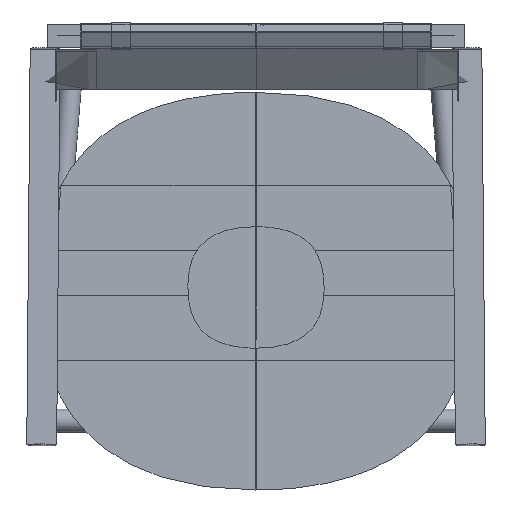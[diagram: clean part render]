
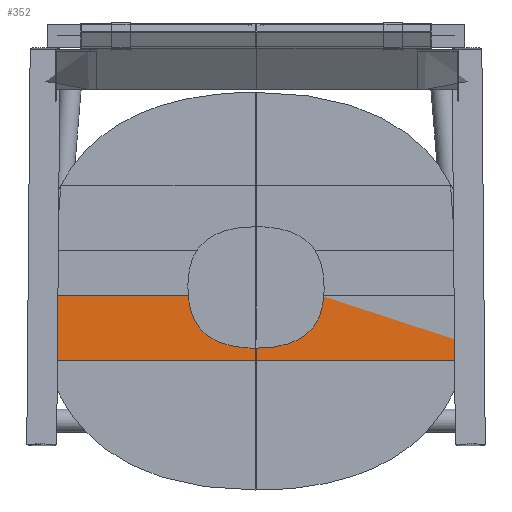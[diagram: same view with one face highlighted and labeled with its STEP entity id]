
A CAD part, top view. The second image highlights one B-rep face of the part: STEP entity #352.
In plain terms, the highlighted free-form (B-spline) face has degree [1, 1] with [2, 2] control points.
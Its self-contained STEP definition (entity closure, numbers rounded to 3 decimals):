
#352=ADVANCED_FACE('',(#876),#15521,.T.);
#876=FACE_OUTER_BOUND('',#1400,.T.);
#1400=EDGE_LOOP('',(#2783,#2784,#2785,#2786));
#2783=ORIENTED_EDGE('',*,*,#12859,.T.);
#2784=ORIENTED_EDGE('',*,*,#12856,.F.);
#2785=ORIENTED_EDGE('',*,*,#12860,.T.);
#2786=ORIENTED_EDGE('',*,*,#12850,.F.);
#5032=PCURVE('',#15518,#7292);
#5038=PCURVE('',#15519,#7298);
#5043=PCURVE('',#15521,#7303);
#5044=PCURVE('',#15521,#7304);
#5045=PCURVE('',#15521,#7305);
#5046=PCURVE('',#15521,#7306);
#5047=PCURVE('',#15522,#7307);
#5053=PCURVE('',#15523,#7313);
#7292=DEFINITIONAL_REPRESENTATION('',(#9698),#48049);
#7298=DEFINITIONAL_REPRESENTATION('',(#9710),#48049);
#7303=DEFINITIONAL_REPRESENTATION('',(#9718),#48049);
#7304=DEFINITIONAL_REPRESENTATION('',(#9719),#48049);
#7305=DEFINITIONAL_REPRESENTATION('',(#9721),#48049);
#7306=DEFINITIONAL_REPRESENTATION('',(#9722),#48049);
#7307=DEFINITIONAL_REPRESENTATION('',(#9723),#48049);
#7313=DEFINITIONAL_REPRESENTATION('',(#9729),#48049);
#9697=B_SPLINE_CURVE_WITH_KNOTS('',1,(#30278,#30279),.UNSPECIFIED.,.F.,
 .F.,(2,2),(-353.881,-105.402),.UNSPECIFIED.);
#9698=B_SPLINE_CURVE_WITH_KNOTS('',1,(#30280,#30281),.UNSPECIFIED.,.F.,
 .F.,(2,2),(-353.881,-105.402),.UNSPECIFIED.);
#9709=B_SPLINE_CURVE_WITH_KNOTS('',1,(#30314,#30315),.UNSPECIFIED.,.F.,
 .F.,(2,2),(-715.361,-472.811),.UNSPECIFIED.);
#9710=B_SPLINE_CURVE_WITH_KNOTS('',1,(#30316,#30317),.UNSPECIFIED.,.F.,
 .F.,(2,2),(-715.361,-472.811),.UNSPECIFIED.);
#9717=B_SPLINE_CURVE_WITH_KNOTS('',3,(#30338,#30339,#30340,#30341),
 .UNSPECIFIED.,.F.,.F.,(4,4),(0.952,96.059),
 .UNSPECIFIED.);
#9718=B_SPLINE_CURVE_WITH_KNOTS('',3,(#30342,#30343,#30344,#30345),
 .UNSPECIFIED.,.F.,.F.,(4,4),(0.952,96.059),
 .UNSPECIFIED.);
#9719=B_SPLINE_CURVE_WITH_KNOTS('',1,(#30346,#30347),.UNSPECIFIED.,.F.,
 .F.,(2,2),(-715.361,-472.811),.UNSPECIFIED.);
#9720=B_SPLINE_CURVE_WITH_KNOTS('',3,(#30348,#30349,#30350,#30351),
 .UNSPECIFIED.,.F.,.F.,(4,4),(11.89,106.997),
 .UNSPECIFIED.);
#9721=B_SPLINE_CURVE_WITH_KNOTS('',3,(#30352,#30353,#30354,#30355),
 .UNSPECIFIED.,.F.,.F.,(4,4),(11.89,106.997),
 .UNSPECIFIED.);
#9722=B_SPLINE_CURVE_WITH_KNOTS('',1,(#30356,#30357),.UNSPECIFIED.,.F.,
 .F.,(2,2),(-353.881,-105.402),.UNSPECIFIED.);
#9723=B_SPLINE_CURVE_WITH_KNOTS('',3,(#30358,#30359,#30360,#30361),
 .UNSPECIFIED.,.F.,.F.,(4,4),(11.89,106.997),
 .UNSPECIFIED.);
#9729=B_SPLINE_CURVE_WITH_KNOTS('',3,(#30382,#30383,#30384,#30385),
 .UNSPECIFIED.,.F.,.F.,(4,4),(0.952,96.059),
 .UNSPECIFIED.);
#11639=SURFACE_CURVE('',#9697,(#5032,#5046),.PCURVE_S1.);
#11645=SURFACE_CURVE('',#9709,(#5038,#5044),.PCURVE_S1.);
#11648=SURFACE_CURVE('',#9717,(#5043,#5053),.PCURVE_S1.);
#11649=SURFACE_CURVE('',#9720,(#5045,#5047),.PCURVE_S1.);
#12850=EDGE_CURVE('',#14688,#14683,#11639,.T.);
#12856=EDGE_CURVE('',#14686,#14689,#11645,.T.);
#12859=EDGE_CURVE('',#14688,#14689,#11648,.T.);
#12860=EDGE_CURVE('',#14686,#14683,#11649,.T.);
#14683=VERTEX_POINT('',#30262);
#14686=VERTEX_POINT('',#30265);
#14688=VERTEX_POINT('',#30267);
#14689=VERTEX_POINT('',#30268);
#15518=B_SPLINE_SURFACE_WITH_KNOTS('',1,1,((#30238,#30239),(#30240,#30241)),
 .UNSPECIFIED.,.F.,.F.,.F.,(2,2),(2,2),(94.846,364.442),
(0.,17.006),.UNSPECIFIED.);
#15519=B_SPLINE_SURFACE_WITH_KNOTS('',1,1,((#30242,#30243),(#30244,#30245)),
 .UNSPECIFIED.,.F.,.F.,.F.,(2,2),(2,2),(459.288,728.884),
(0.,17.006),.UNSPECIFIED.);
#15521=B_SPLINE_SURFACE_WITH_KNOTS('',1,1,((#30250,#30251),(#30252,#30253)),
 .UNSPECIFIED.,.F.,.F.,.F.,(2,2),(2,2),(-11.857,106.702),
(-80.032,720.284),.UNSPECIFIED.);
#15522=B_SPLINE_SURFACE_WITH_KNOTS('',1,1,((#30254,#30255),(#30256,#30257)),
 .UNSPECIFIED.,.F.,.F.,.F.,(2,2),(2,2),(0.,130.207),(472.968,
700.655),.UNSPECIFIED.);
#15523=B_SPLINE_SURFACE_WITH_KNOTS('',1,1,((#30258,#30259),(#30260,#30261)),
 .UNSPECIFIED.,.F.,.F.,.F.,(2,2),(2,2),(0.,130.207),(0.,227.687),
 .UNSPECIFIED.);
#30238=CARTESIAN_POINT('',(75546.693,-59292.014,275.141));
#30239=CARTESIAN_POINT('',(75546.733,-59290.467,309.256));
#30240=CARTESIAN_POINT('',(76214.671,-59292.025,274.988));
#30241=CARTESIAN_POINT('',(76214.711,-59290.478,309.103));
#30242=CARTESIAN_POINT('',(76214.665,-59197.276,270.695));
#30243=CARTESIAN_POINT('',(76214.704,-59195.729,304.809));
#30244=CARTESIAN_POINT('',(75546.687,-59197.265,270.848));
#30245=CARTESIAN_POINT('',(75546.726,-59195.718,304.962));
#30250=CARTESIAN_POINT('',(75463.228,-59183.872,304.445));
#30251=CARTESIAN_POINT('',(76298.21,-59183.887,304.254));
#30252=CARTESIAN_POINT('',(75463.227,-59302.309,309.812));
#30253=CARTESIAN_POINT('',(76298.209,-59302.324,309.621));
#30254=CARTESIAN_POINT('',(75571.412,-59310.566,236.164));
#30255=CARTESIAN_POINT('',(75589.009,-59083.312,240.181));
#30256=CARTESIAN_POINT('',(75571.412,-59307.923,421.58));
#30257=CARTESIAN_POINT('',(75589.009,-59080.669,425.597));
#30258=CARTESIAN_POINT('',(76172.421,-59083.312,240.181));
#30259=CARTESIAN_POINT('',(76190.018,-59310.566,236.164));
#30260=CARTESIAN_POINT('',(76172.421,-59080.669,425.597));
#30261=CARTESIAN_POINT('',(76190.018,-59307.923,421.58));
#30262=CARTESIAN_POINT('',(75572.888,-59290.468,309.25));
#30265=CARTESIAN_POINT('',(75580.232,-59195.719,304.955));
#30267=CARTESIAN_POINT('',(76188.543,-59290.477,309.109));
#30268=CARTESIAN_POINT('',(76181.2,-59195.728,304.817));
#30278=CARTESIAN_POINT('',(76188.543,-59290.477,309.109));
#30279=CARTESIAN_POINT('',(75572.888,-59290.468,309.25));
#30280=CARTESIAN_POINT('',(353.881,17.006));
#30281=CARTESIAN_POINT('',(105.402,17.006));
#30314=CARTESIAN_POINT('',(75580.232,-59195.719,304.955));
#30315=CARTESIAN_POINT('',(76181.2,-59195.728,304.817));
#30316=CARTESIAN_POINT('',(715.361,17.006));
#30317=CARTESIAN_POINT('',(472.811,17.006));
#30338=CARTESIAN_POINT('',(76188.543,-59290.477,309.109));
#30339=CARTESIAN_POINT('',(76186.095,-59258.894,307.678));
#30340=CARTESIAN_POINT('',(76183.647,-59227.311,306.248));
#30341=CARTESIAN_POINT('',(76181.2,-59195.728,304.817));
#30342=CARTESIAN_POINT('',(94.845,615.171));
#30343=CARTESIAN_POINT('',(63.23,612.825));
#30344=CARTESIAN_POINT('',(31.614,610.478));
#30345=CARTESIAN_POINT('',(-0.001,608.132));
#30346=CARTESIAN_POINT('',(0.,32.114));
#30347=CARTESIAN_POINT('',(-0.001,608.132));
#30348=CARTESIAN_POINT('',(75580.232,-59195.719,304.955));
#30349=CARTESIAN_POINT('',(75577.784,-59227.302,306.386));
#30350=CARTESIAN_POINT('',(75575.336,-59258.885,307.818));
#30351=CARTESIAN_POINT('',(75572.888,-59290.468,309.25));
#30352=CARTESIAN_POINT('',(0.,32.114));
#30353=CARTESIAN_POINT('',(31.615,29.768));
#30354=CARTESIAN_POINT('',(63.231,27.422));
#30355=CARTESIAN_POINT('',(94.846,25.077));
#30356=CARTESIAN_POINT('',(94.845,615.171));
#30357=CARTESIAN_POINT('',(94.846,25.077));
#30358=CARTESIAN_POINT('',(46.894,587.081));
#30359=CARTESIAN_POINT('',(48.292,555.409));
#30360=CARTESIAN_POINT('',(49.69,523.738));
#30361=CARTESIAN_POINT('',(51.087,492.066));
#30382=CARTESIAN_POINT('',(50.988,208.597));
#30383=CARTESIAN_POINT('',(49.591,176.925));
#30384=CARTESIAN_POINT('',(48.194,145.254));
#30385=CARTESIAN_POINT('',(46.797,113.582));
#48049=(
GEOMETRIC_REPRESENTATION_CONTEXT(2)
PARAMETRIC_REPRESENTATION_CONTEXT()
REPRESENTATION_CONTEXT('pspace','')
);
